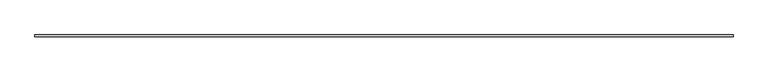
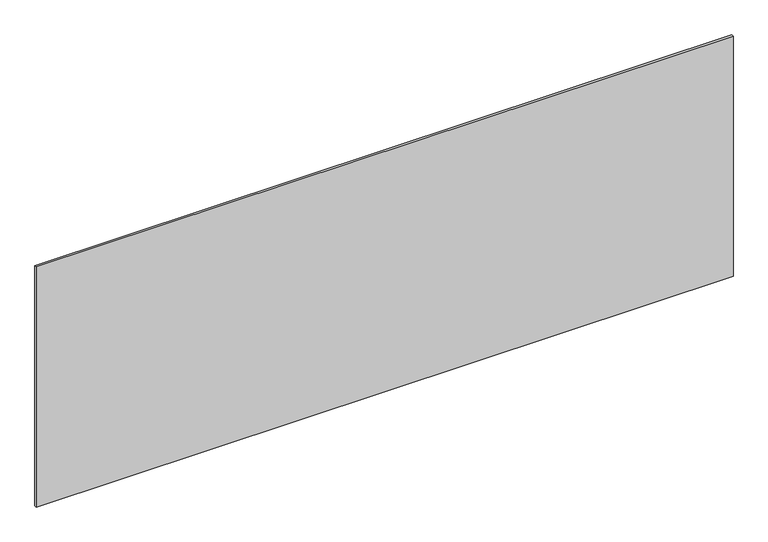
"""IFC4 building model written with IfcOpenShell, lengths in millimetres: plate geometry, システム パネル : 標準."""

from ifc_helpers import new_model, si_unit, origin, origin_with_axes, place, context, project, spatial, polyline, outline, extrude, source, transform, mapped, element, save


def plate_442a9317(model_context):
    return source(origin(), model_context, "Body", "SweptSolid", [
        extrude(outline(polyline([(1715.0, -5.0), (-1715.0, -5.0), (-1715.0, 5.0), (1715.0, 5.0), (1715.0, -5.0)])), origin_with_axes(), (0.0, 0.0, 1.0), 1249.3695227),
    ])


if __name__ == "__main__":
    model = new_model("IFC4")
    model_context = context("Model", 3, world=origin())
    ifc_project = project(units=[si_unit("LENGTHUNIT", "METRE", prefix="MILLI")], contexts=[model_context])
    site = spatial("IfcSite", under=ifc_project)
    building = spatial("IfcBuilding", under=site)
    placement = place(None, origin())
    plate_shape = plate_442a9317(model_context)
    element("IfcPlate", 1, ObjectType="システム パネル : 標準", at=placement, inside=building, context=model_context, shape_type="MappedRepresentation", body=[
        mapped(plate_shape, transform((0.0, 0.0, 0.0), x_axis=(1.0, 0.0, 0.0), y_axis=(0.0, 1.0, 0.0), z_axis=(0.0, 0.0, 1.0))),
    ])
    save(model, "model.ifc")
